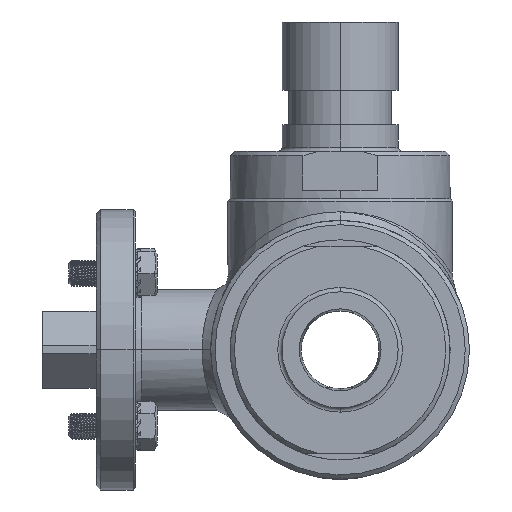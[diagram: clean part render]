
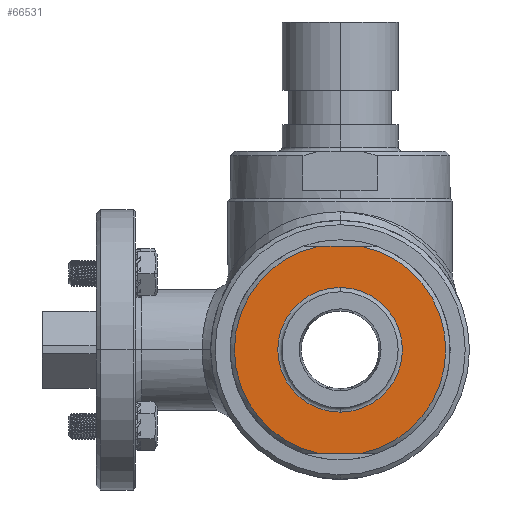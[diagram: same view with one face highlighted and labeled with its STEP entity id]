
A CAD part, left-side view. The second image highlights one B-rep face of the part: STEP entity #66531.
In plain terms, the highlighted planar face has unit normal (-1, 0, 0).
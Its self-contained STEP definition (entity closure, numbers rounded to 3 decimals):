
#3333=CARTESIAN_POINT('',(-46.,0.,0.));
#3334=DIRECTION('',(1.,0.,0.));
#3335=DIRECTION('',(0.,-0.201,0.98));
#3336=AXIS2_PLACEMENT_3D('',#3333,#3334,#3335);
#3341=DIRECTION('',(0.,-1.,0.));
#3342=VECTOR('',#3341,9.849);
#3343=CARTESIAN_POINT('',(-46.,4.924,
-24.));
#3344=LINE('',#3343,#3342);
#3348=CARTESIAN_POINT('',(-46.,0.,0.));
#3349=DIRECTION('',(1.,0.,0.));
#3350=DIRECTION('',(0.,0.201,-0.98));
#3351=AXIS2_PLACEMENT_3D('',#3348,#3349,#3350);
#3356=DIRECTION('',(0.,1.,0.));
#3357=VECTOR('',#3356,9.849);
#3358=CARTESIAN_POINT('',(-46.,-4.924,
24.));
#3359=LINE('',#3358,#3357);
#3363=CARTESIAN_POINT('',(-46.,0.,0.));
#3364=DIRECTION('',(-1.,0.,0.));
#3365=DIRECTION('',(0.,0.,1.));
#3366=AXIS2_PLACEMENT_3D('',#3363,#3364,#3365);
#3371=CARTESIAN_POINT('',(-46.,0.,0.));
#3372=DIRECTION('',(-1.,0.,0.));
#3373=DIRECTION('',(0.,0.,-1.));
#3374=AXIS2_PLACEMENT_3D('',#3371,#3372,#3373);
#3384=CARTESIAN_POINT('',(-46.,-4.924,
-24.));
#3481=CARTESIAN_POINT('',(-46.,4.924,24.));
#61294=VERTEX_POINT('',#3384);
#61295=CARTESIAN_POINT('',(-46.,-4.924,24.));
#61296=VERTEX_POINT('',#61295);
#61299=VERTEX_POINT('',#3481);
#61300=CARTESIAN_POINT('',(-46.,4.924,-24.));
#61301=VERTEX_POINT('',#61300);
#61339=CARTESIAN_POINT('',(-46.,0.,14.45));
#61340=CARTESIAN_POINT('',(-46.,0.,-14.45));
#61341=VERTEX_POINT('',#61339);
#61342=VERTEX_POINT('',#61340);
#66511=CARTESIAN_POINT('',(-46.,0.,0.));
#66512=DIRECTION('',(-1.,0.,0.));
#66513=DIRECTION('',(0.,0.,1.));
#66514=AXIS2_PLACEMENT_3D('',#66511,#66512,#66513);
#66515=PLANE('',#66514);
#66517=ORIENTED_EDGE('',*,*,#66516,.T.);
#66519=ORIENTED_EDGE('',*,*,#66518,.F.);
#66521=ORIENTED_EDGE('',*,*,#66520,.T.);
#66523=ORIENTED_EDGE('',*,*,#66522,.F.);
#66524=EDGE_LOOP('',(#66517,#66519,#66521,#66523));
#66525=FACE_OUTER_BOUND('',#66524,.F.);
#66527=ORIENTED_EDGE('',*,*,#66526,.T.);
#66528=ORIENTED_EDGE('',*,*,#66501,.T.);
#66529=EDGE_LOOP('',(#66527,#66528));
#66530=FACE_BOUND('',#66529,.F.);
#3337=CIRCLE('',#3336,24.5);
#3352=CIRCLE('',#3351,24.5);
#3367=CIRCLE('',#3366,14.45);
#3375=CIRCLE('',#3374,14.45);
#66501=EDGE_CURVE('',#61342,#61341,#3375,.T.);
#66516=EDGE_CURVE('',#61296,#61294,#3337,.T.);
#66518=EDGE_CURVE('',#61301,#61294,#3344,.T.);
#66520=EDGE_CURVE('',#61301,#61299,#3352,.T.);
#66522=EDGE_CURVE('',#61296,#61299,#3359,.T.);
#66526=EDGE_CURVE('',#61341,#61342,#3367,.T.);
#66531=ADVANCED_FACE('',(#66525,#66530),#66515,.T.);
